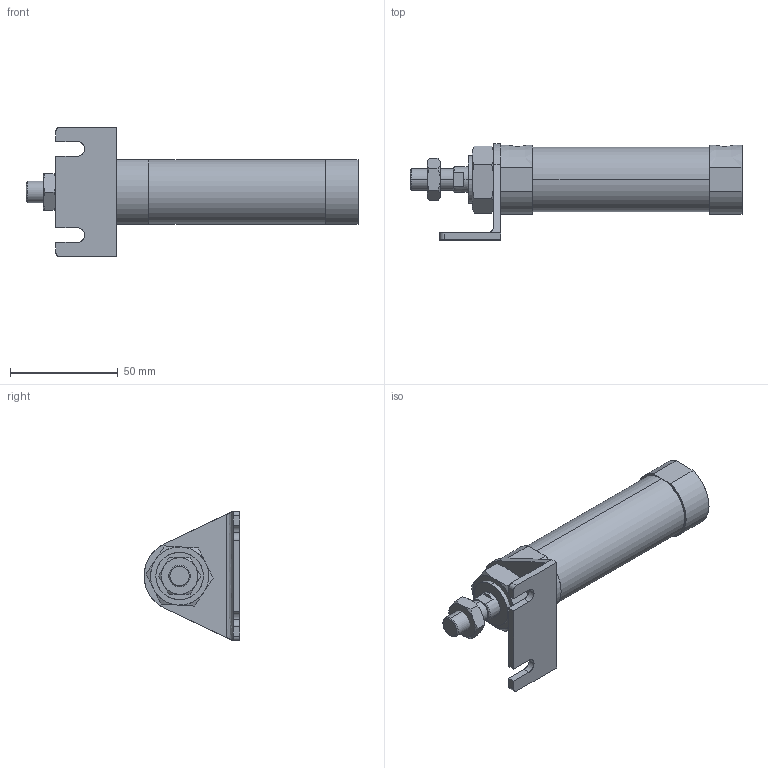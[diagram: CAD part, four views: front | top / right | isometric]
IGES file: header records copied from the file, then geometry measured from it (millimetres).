
Start section: SolidWorks IGES file using analytic representation for surfaces
Global section: file name: C:\Users\Toshiba\Desktop\JGND2-25-50-L.IGS; native system: SolidWorks 2014; preprocessor: SolidWorks 2014; author: Toshiba; date: 160804.103554; units: millimetre
Bounding box: 154 x 44.5 x 60 mm (x, y, z)
Surface area: 25126.9 mm2 (no closed solid volume)
Topology: 0 solids, 0 shells, 115 faces, 1928 edges, 1924 vertices
Faces by surface type: bspline 74, revolution 41
